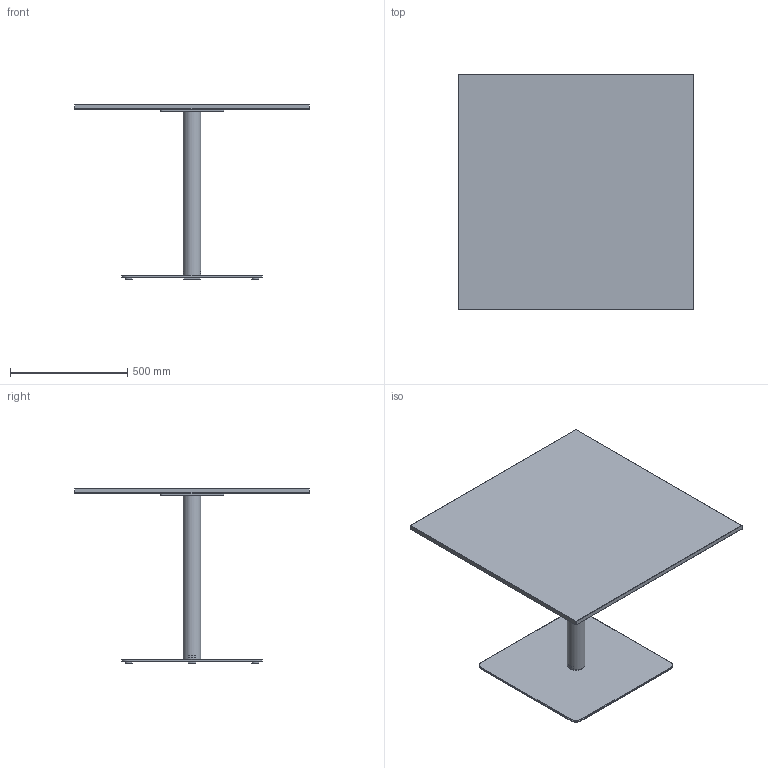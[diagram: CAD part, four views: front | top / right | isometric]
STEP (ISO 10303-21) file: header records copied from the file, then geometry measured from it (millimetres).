
FILE_DESCRIPTION( ('This file contains a STEP AP42 implementation' ,'as created by ZW3D STEP Interface translator.') ,'2;1' );
FILE_NAME( 'Henri - B_Carré - F4 - M1 - 1000 x 1000 x 750.stp' ,'24 912.1724 3', (''), ('ZWCAD Software Co.'), 'Version 1.0', 'ZW3D to STEP translator', '' );
FILE_SCHEMA(('AUTOMOTIVE_DESIGN { 1 0 10303 214 1 1 1 1 }'));
Length unit declared in the file: millimetre
Products named in the file (14): 0; PIED BISTROT PARAMETRIQUE_; COLONNE ACIER Ø76 V.02_; TUB-D076-02_; PLA-R76B-01_; CROIX ACIER 370 V.02_; CRX-X370-02_; SOCLE ACIER L 600x600 V.02_; SCL-R600-02_; PLA-R30A-01_; PLA-R30A-01; WUERTH 0276063020 Euro-screw 6.3x2 Verzinkt_; PLATEAU BISTROT PARAMETRIQUE_; insert_m6_13_
Assembly tree (22 placements, depth 3):
  0
  PIED BISTROT PARAMETRIQUE_
    COLONNE ACIER Ø76 V.02_
      TUB-D076-02_
      PLA-R76B-01_  x2
    CROIX ACIER 370 V.02_
      CRX-X370-02_
    SOCLE ACIER L 600x600 V.02_
      SCL-R600-02_
      PLA-R30A-01_
      PLA-R30A-01  x3
    WUERTH 0276063020 Euro-screw 6.3x2 Verzinkt_
    PLATEAU BISTROT PARAMETRIQUE_
      insert_m6_13_  x8
Bounding box: 1000 x 1000 x 744 mm (x, y, z)
Volume: 23802230.1 mm3; surface area: 3329351.4 mm2
Topology: 19 solids, 19 shells, 537 faces, 1310 edges, 814 vertices
Faces by surface type: plane 262, bspline 129, cylinder 98, cone 47, torus 1
Full cylindrical faces by diameter (mm): 4.88 x1, 6 x8, 6.3 x1, 8 x45, 12 x2, 14 x2, 30 x4, 72 x1, 76 x1
Entity records: 12222 total; most frequent: CARTESIAN_POINT 3436, ORIENTED_EDGE 1608, DIRECTION 1471, EDGE_CURVE 804, VECTOR 513, LINE 513, VERTEX_POINT 510, AXIS2_PLACEMENT_3D 479
